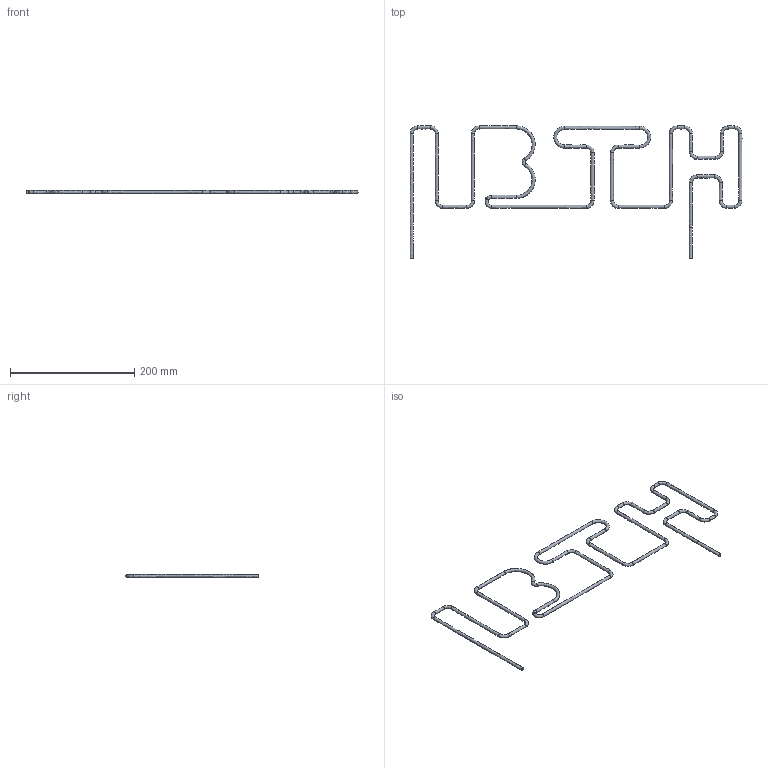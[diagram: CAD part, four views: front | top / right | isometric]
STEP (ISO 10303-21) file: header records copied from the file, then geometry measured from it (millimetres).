
FILE_DESCRIPTION(/* description */ (''),/* implementation_level */ '2;1');
FILE_NAME(/* name */ '01_Wire.stp',/* time_stamp */ '2022-12-02T13:07:52+01:00',/* author */ (''),/* organization */ (''),/* preprocessor_version */ 'ST-DEVELOPER v16.7',/* originating_system */ 'SIEMENS PLM Software NX 1930',/* authorisation */ '');
FILE_SCHEMA (('AUTOMOTIVE_DESIGN { 1 0 10303 214 3 1 1 1 }'));
Length unit declared in the file: millimetre
Products named in the file (1): hilkC0E0FDA296ou
Bounding box: 535.02 x 213.2 x 5 mm (x, y, z)
Volume: 44319.7 mm3; surface area: 35509.2 mm2
Topology: 1 solids, 1 shells, 54 faces, 105 edges, 53 vertices
Faces by surface type: bspline 52, plane 2
Entity records: 6655 total; most frequent: CARTESIAN_POINT 6097, EDGE_LOOP 106, ORIENTED_EDGE 106, FACE_BOUND 104, ADVANCED_FACE 54, VERTEX_POINT 53, EDGE_CURVE 53, DIRECTION 16
